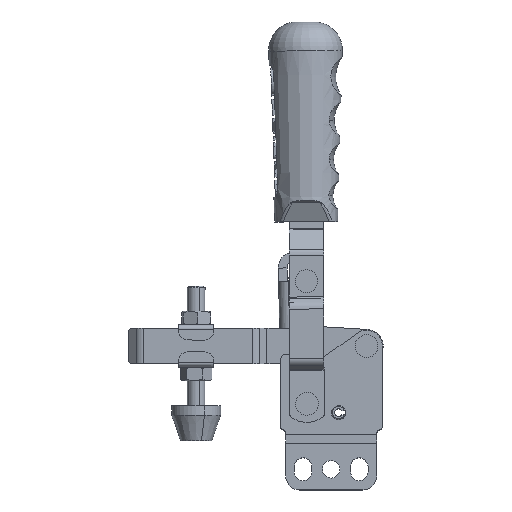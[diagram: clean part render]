
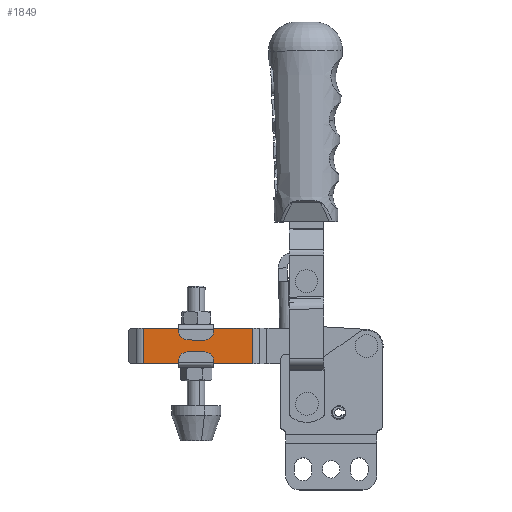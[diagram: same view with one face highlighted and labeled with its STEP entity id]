
A CAD part, top view. The second image highlights one B-rep face of the part: STEP entity #1849.
In plain terms, the highlighted planar face has unit normal (0, 0, 1) as drawn and (0, 0, -1) by its records, which use the part's own axes.
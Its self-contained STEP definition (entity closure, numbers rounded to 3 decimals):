
#97 = FACE_OUTER_BOUND ( 'NONE', #3150, .T. ) ;
#1227 = VECTOR ( 'NONE', #9010, 1000. ) ;
#1742 = CARTESIAN_POINT ( 'NONE',  ( 0., -5., 0. ) ) ;
#1849 = ADVANCED_FACE ( 'NONE', ( #97 ), #3545, .F. ) ;
#3150 = EDGE_LOOP ( 'NONE', ( #18520, #9609, #10956, #20169 ) ) ;
#3545 = PLANE ( 'NONE',  #10897 ) ;
#4587 = DIRECTION ( 'NONE',  ( 0., 1., 0. ) ) ;
#5567 = CARTESIAN_POINT ( 'NONE',  ( 63.591, -5., 0. ) ) ;
#6921 = DIRECTION ( 'NONE',  ( 1., 0., 0. ) ) ;
#7049 = CARTESIAN_POINT ( 'NONE',  ( 63.591, 5., 0. ) ) ;
#7427 = LINE ( 'NONE', #14594, #20096 ) ;
#7661 = VERTEX_POINT ( 'NONE', #18596 ) ;
#8401 = CARTESIAN_POINT ( 'NONE',  ( 63.591, 0., 0. ) ) ;
#9010 = DIRECTION ( 'NONE',  ( 1., 0., 0. ) ) ;
#9609 = ORIENTED_EDGE ( 'NONE', *, *, #12370, .F. ) ;
#9692 = VECTOR ( 'NONE', #6921, 1000. ) ;
#10897 = AXIS2_PLACEMENT_3D ( 'NONE', #14310, #16629, #19960 ) ;
#10956 = ORIENTED_EDGE ( 'NONE', *, *, #13299, .T. ) ;
#11590 = VERTEX_POINT ( 'NONE', #7049 ) ;
#12370 = EDGE_CURVE ( 'NONE', #7661, #21602, #17938, .T. ) ;
#13299 = EDGE_CURVE ( 'NONE', #7661, #20703, #7427, .T. ) ;
#14310 = CARTESIAN_POINT ( 'NONE',  ( 0., 0., 0. ) ) ;
#14594 = CARTESIAN_POINT ( 'NONE',  ( 32.449, 0., 0. ) ) ;
#15617 = LINE ( 'NONE', #22855, #9692 ) ;
#15798 = CARTESIAN_POINT ( 'NONE',  ( 32.449, 5., 0. ) ) ;
#16629 = DIRECTION ( 'NONE',  ( 0., 0., 1. ) ) ;
#17938 = LINE ( 'NONE', #1742, #1227 ) ;
#17976 = VECTOR ( 'NONE', #4587, 1000. ) ;
#18520 = ORIENTED_EDGE ( 'NONE', *, *, #22852, .F. ) ;
#18596 = CARTESIAN_POINT ( 'NONE',  ( 32.449, -5., 0. ) ) ;
#19960 = DIRECTION ( 'NONE',  ( 1., 0., 0. ) ) ;
#20096 = VECTOR ( 'NONE', #21809, 1000. ) ;
#20169 = ORIENTED_EDGE ( 'NONE', *, *, #21074, .T. ) ;
#20703 = VERTEX_POINT ( 'NONE', #15798 ) ;
#21074 = EDGE_CURVE ( 'NONE', #20703, #11590, #15617, .T. ) ;
#21602 = VERTEX_POINT ( 'NONE', #5567 ) ;
#21809 = DIRECTION ( 'NONE',  ( 0., 1., 0. ) ) ;
#22542 = LINE ( 'NONE', #8401, #17976 ) ;
#22852 = EDGE_CURVE ( 'NONE', #21602, #11590, #22542, .T. ) ;
#22855 = CARTESIAN_POINT ( 'NONE',  ( 0., 5., 0. ) ) ;
